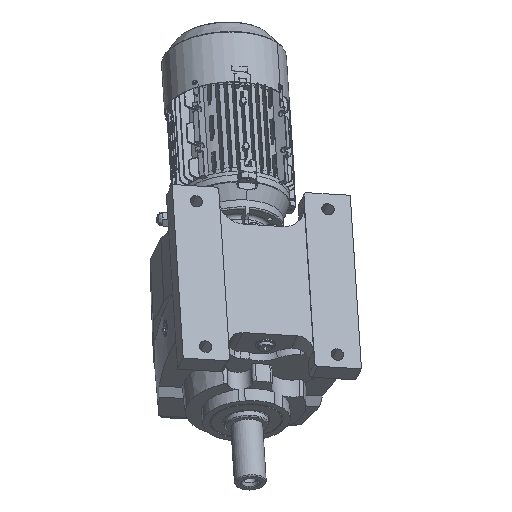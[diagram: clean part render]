
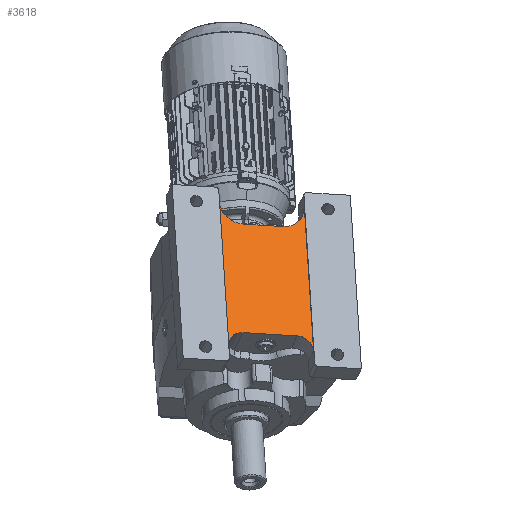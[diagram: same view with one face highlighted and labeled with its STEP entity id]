
A CAD part, front view. The second image highlights one B-rep face of the part: STEP entity #3618.
In plain terms, the highlighted planar face has unit normal (0.236, -0.857, 0.457) as drawn and (0, -1, 0) by its records, which use the part's own axes.
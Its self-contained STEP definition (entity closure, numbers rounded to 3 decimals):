
#3618 = ADVANCED_FACE ( 'NONE', ( #106629 ), #70791, .T. ) ;
#31915 = EDGE_LOOP ( 'NONE', ( #204289, #204148, #204404, #204124, #204135, #204167, #204677, #204430 ) ) ;
#44137 = AXIS2_PLACEMENT_3D ( 'NONE', #203759, #203780, #203782 ) ;
#44164 = AXIS2_PLACEMENT_3D ( 'NONE', #206646, #206621, #206666 ) ;
#44182 = AXIS2_PLACEMENT_3D ( 'NONE', #206922, #206928, #206929 ) ;
#70791 = PLANE ( 'NONE',  #95889 ) ;
#70795 = DIRECTION ( 'NONE',  ( 0., -1., 0. ) ) ;
#70815 = CARTESIAN_POINT ( 'NONE',  ( 54.9, -138.5, 158.75 ) ) ;
#70862 = DIRECTION ( 'NONE',  ( 0., 0., -1. ) ) ;
#95889 = AXIS2_PLACEMENT_3D ( 'NONE', #70815, #70795, #70862 ) ;
#98720 = AXIS2_PLACEMENT_3D ( 'NONE', #150056, #150099, #150058 ) ;
#103670 = VERTEX_POINT ( 'NONE', #204632 ) ;
#103691 = VERTEX_POINT ( 'NONE', #204608 ) ;
#103707 = VERTEX_POINT ( 'NONE', #204749 ) ;
#103733 = VERTEX_POINT ( 'NONE', #204673 ) ;
#103768 = VERTEX_POINT ( 'NONE', #204760 ) ;
#103781 = VERTEX_POINT ( 'NONE', #204686 ) ;
#103853 = VERTEX_POINT ( 'NONE', #204829 ) ;
#103867 = VERTEX_POINT ( 'NONE', #204816 ) ;
#106629 = FACE_OUTER_BOUND ( 'NONE', #31915, .T. ) ;
#119801 = EDGE_CURVE ( 'NONE', #103707, #103853, #138913, .T. ) ;
#119840 = EDGE_CURVE ( 'NONE', #103853, #103867, #138944, .T. ) ;
#119846 = EDGE_CURVE ( 'NONE', #103867, #103670, #138942, .T. ) ;
#119951 = EDGE_CURVE ( 'NONE', #103691, #103733, #139253, .T. ) ;
#119991 = EDGE_CURVE ( 'NONE', #103670, #103691, #139503, .T. ) ;
#122900 = LINE ( 'NONE', #150283, #122901 ) ;
#122901 = VECTOR ( 'NONE', #150270, 1000. ) ;
#122936 = CIRCLE ( 'NONE', #98720, 20. ) ;
#122977 = LINE ( 'NONE', #153922, #122986 ) ;
#122986 = VECTOR ( 'NONE', #153925, 1000. ) ;
#138913 = CIRCLE ( 'NONE', #44137, 30. ) ;
#138942 = CIRCLE ( 'NONE', #44164, 30. ) ;
#138944 = LINE ( 'NONE', #206527, #138956 ) ;
#138956 = VECTOR ( 'NONE', #206559, 1000. ) ;
#139253 = CIRCLE ( 'NONE', #44182, 20. ) ;
#139503 = LINE ( 'NONE', #207027, #139534 ) ;
#139534 = VECTOR ( 'NONE', #207025, 1000. ) ;
#140967 = EDGE_CURVE ( 'NONE', #103768, #103781, #122936, .T. ) ;
#141000 = EDGE_CURVE ( 'NONE', #103733, #103768, #122900, .T. ) ;
#141076 = EDGE_CURVE ( 'NONE', #103781, #103707, #122977, .T. ) ;
#150056 = CARTESIAN_POINT ( 'NONE',  ( -35., -138.5, 178.75 ) ) ;
#150058 = DIRECTION ( 'NONE',  ( 0., 0., -1. ) ) ;
#150099 = DIRECTION ( 'NONE',  ( 0., 1., 0. ) ) ;
#150270 = DIRECTION ( 'NONE',  ( -1., 0., 0. ) ) ;
#150283 = CARTESIAN_POINT ( 'NONE',  ( 54.9, -138.5, 158.75 ) ) ;
#153922 = CARTESIAN_POINT ( 'NONE',  ( -54.9, -138.5, 158.75 ) ) ;
#153925 = DIRECTION ( 'NONE',  ( 0., 0., -1. ) ) ;
#203759 = CARTESIAN_POINT ( 'NONE',  ( -25., -138.5, -25. ) ) ;
#203780 = DIRECTION ( 'NONE',  ( 0., 1., 0. ) ) ;
#203782 = DIRECTION ( 'NONE',  ( 0., 0., 1. ) ) ;
#204124 = ORIENTED_EDGE ( 'NONE', *, *, #119951, .T. ) ;
#204135 = ORIENTED_EDGE ( 'NONE', *, *, #141000, .T. ) ;
#204148 = ORIENTED_EDGE ( 'NONE', *, *, #119846, .T. ) ;
#204167 = ORIENTED_EDGE ( 'NONE', *, *, #140967, .T. ) ;
#204289 = ORIENTED_EDGE ( 'NONE', *, *, #119840, .T. ) ;
#204404 = ORIENTED_EDGE ( 'NONE', *, *, #119991, .T. ) ;
#204430 = ORIENTED_EDGE ( 'NONE', *, *, #119801, .T. ) ;
#204608 = CARTESIAN_POINT ( 'NONE',  ( 54.9, -138.5, 176.753 ) ) ;
#204632 = CARTESIAN_POINT ( 'NONE',  ( 54.9, -138.5, -22.553 ) ) ;
#204673 = CARTESIAN_POINT ( 'NONE',  ( 35., -138.5, 158.75 ) ) ;
#204677 = ORIENTED_EDGE ( 'NONE', *, *, #141076, .T. ) ;
#204686 = CARTESIAN_POINT ( 'NONE',  ( -54.9, -138.5, 176.753 ) ) ;
#204749 = CARTESIAN_POINT ( 'NONE',  ( -54.9, -138.5, -22.553 ) ) ;
#204760 = CARTESIAN_POINT ( 'NONE',  ( -35., -138.5, 158.75 ) ) ;
#204816 = CARTESIAN_POINT ( 'NONE',  ( 25., -138.5, 5. ) ) ;
#204829 = CARTESIAN_POINT ( 'NONE',  ( -25., -138.5, 5. ) ) ;
#206527 = CARTESIAN_POINT ( 'NONE',  ( 115., -138.5, 5. ) ) ;
#206559 = DIRECTION ( 'NONE',  ( 1., 0., 0. ) ) ;
#206621 = DIRECTION ( 'NONE',  ( 0., 1., 0. ) ) ;
#206646 = CARTESIAN_POINT ( 'NONE',  ( 25., -138.5, -25. ) ) ;
#206666 = DIRECTION ( 'NONE',  ( 0., 0., -1. ) ) ;
#206922 = CARTESIAN_POINT ( 'NONE',  ( 35., -138.5, 178.75 ) ) ;
#206928 = DIRECTION ( 'NONE',  ( 0., 1., 0. ) ) ;
#206929 = DIRECTION ( 'NONE',  ( 0., 0., 1. ) ) ;
#207025 = DIRECTION ( 'NONE',  ( 0., 0., 1. ) ) ;
#207027 = CARTESIAN_POINT ( 'NONE',  ( 54.9, -138.5, 158.75 ) ) ;
